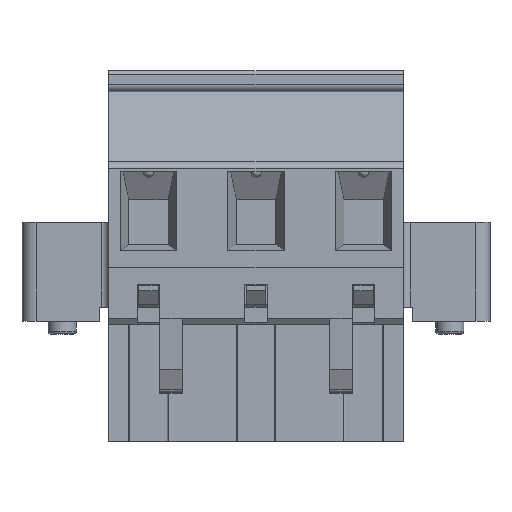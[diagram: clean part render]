
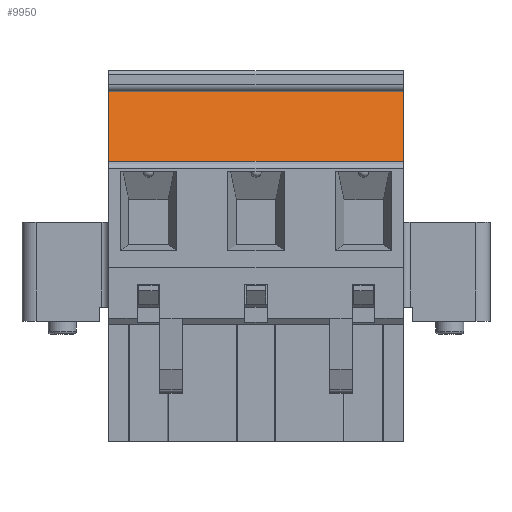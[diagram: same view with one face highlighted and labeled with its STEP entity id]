
A CAD part, top view. The second image highlights one B-rep face of the part: STEP entity #9950.
In plain terms, the highlighted planar face has unit normal (0, 0.285, 0.959).
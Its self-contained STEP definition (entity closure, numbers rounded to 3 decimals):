
#404=DIRECTION('',(0.,-0.959,0.285));
#405=VECTOR('',#404,5.119);
#406=CARTESIAN_POINT('',(6.15,24.75,-3.263));
#407=LINE('',#406,#405);
#1678=DIRECTION('',(1.,0.,0.));
#1679=VECTOR('',#1678,20.84);
#1680=CARTESIAN_POINT('',(6.15,19.843,-1.805));
#1681=LINE('',#1680,#1679);
#1686=DIRECTION('',(-1.,0.,0.));
#1687=VECTOR('',#1686,20.84);
#1688=CARTESIAN_POINT('',(26.99,24.75,-3.263));
#1689=LINE('',#1688,#1687);
#1870=DIRECTION('',(0.,0.959,-0.285));
#1871=VECTOR('',#1870,5.119);
#1872=CARTESIAN_POINT('',(26.99,19.843,-1.805));
#1873=LINE('',#1872,#1871);
#7087=CARTESIAN_POINT('',(6.15,24.75,-3.263));
#7088=VERTEX_POINT('',#7087);
#7089=CARTESIAN_POINT('',(6.15,19.843,-1.805));
#7090=VERTEX_POINT('',#7089);
#7121=CARTESIAN_POINT('',(26.99,19.843,-1.805));
#7122=VERTEX_POINT('',#7121);
#7123=CARTESIAN_POINT('',(26.99,24.75,-3.263));
#7124=VERTEX_POINT('',#7123);
#9937=CARTESIAN_POINT('',(6.2,24.75,-3.263));
#9938=DIRECTION('',(0.,0.285,0.959));
#9939=DIRECTION('',(0.,-0.959,0.285));
#9940=AXIS2_PLACEMENT_3D('',#9937,#9938,#9939);
#9941=PLANE('',#9940);
#9943=ORIENTED_EDGE('',*,*,#9942,.F.);
#9945=ORIENTED_EDGE('',*,*,#9944,.F.);
#9946=ORIENTED_EDGE('',*,*,#9928,.F.);
#9947=ORIENTED_EDGE('',*,*,#8560,.F.);
#9948=EDGE_LOOP('',(#9943,#9945,#9946,#9947));
#9949=FACE_OUTER_BOUND('',#9948,.F.);
#9950=ADVANCED_FACE('',(#9949),#9941,.T.);
#8560=EDGE_CURVE('',#7088,#7090,#407,.T.);
#9928=EDGE_CURVE('',#7090,#7122,#1681,.T.);
#9942=EDGE_CURVE('',#7124,#7088,#1689,.T.);
#9944=EDGE_CURVE('',#7122,#7124,#1873,.T.);
